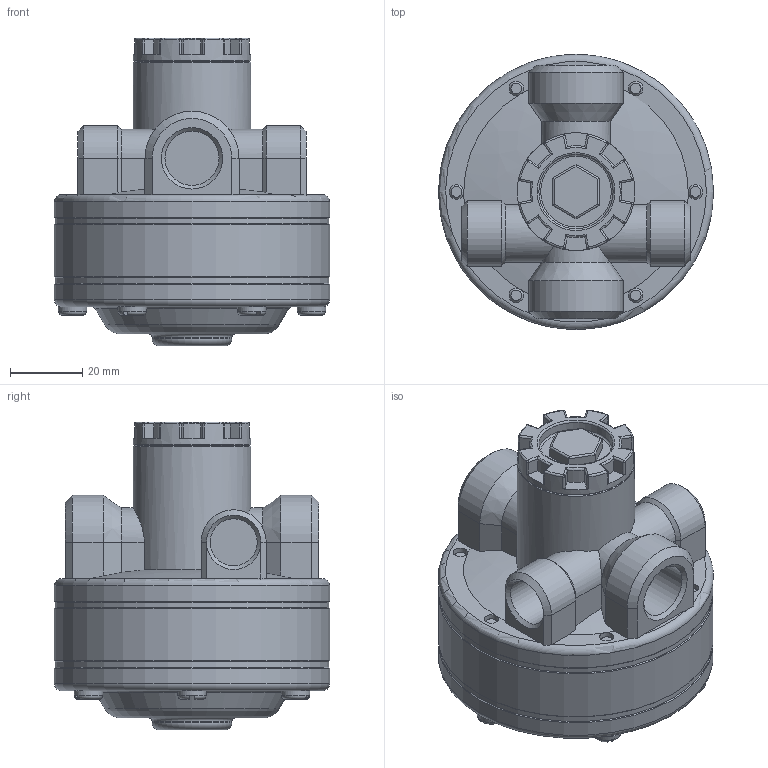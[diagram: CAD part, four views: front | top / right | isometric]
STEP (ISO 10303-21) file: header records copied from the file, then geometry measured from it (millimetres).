
FILE_DESCRIPTION(/* description */ (''),/* implementation_level */ '2;1');
FILE_NAME(/* name */ 'U:/AirCom-Produktdokumentation/Volumenstrombooster/R119-J/Zeichnungen/CAD-Aircom/3D/B-R119-03J.step',/* time_stamp */ '2019-05-06T08:55:31+02:00',/* author */ ('fschroers'),/* organization */ (''),/* preprocessor_version */ 'ST-DEVELOPER v18',/* originating_system */ 'Autodesk Translation Framework v8.2.0.1029',/* authorisation */ '');
FILE_SCHEMA (('AUTOMOTIVE_DESIGN { 1 0 10303 214 3 1 1 }'));
Length unit declared in the file: millimetre
Products named in the file (5): B-R119-02J; B-R119-02x; _SFS FN 301 111186 Flachkopfschraube DIN 85 Stahl 4; Bodenschraube; B-R119-02x_1
Assembly tree (9 placements, depth 3):
  B-R119-02J
    B-R119-02x
    _SFS FN 301 111186 Flachkopfschraube DIN 85 Stahl 4  x6
    Bodenschraube
      B-R119-02x_1
Bounding box: 76 x 76 x 85 mm (x, y, z)
Volume: 213431.9 mm3; surface area: 68680 mm2
Topology: 12 solids, 12 shells, 337 faces, 813 edges, 507 vertices
Faces by surface type: plane 133, cylinder 110, cone 38, torus 36, sphere 16, bspline 4
Full cylindrical faces by diameter (mm): 3.141 x6, 4 x36, 8.5 x1, 13 x2, 14.95 x2, 20.5 x1, 22 x1, 32.5 x2, 75.5 x2, 76 x3
Entity records: 8360 total; most frequent: CARTESIAN_POINT 1758, DIRECTION 1451, ORIENTED_EDGE 1276, EDGE_CURVE 638, AXIS2_PLACEMENT_3D 592, VERTEX_POINT 387, EDGE_LOOP 329, CIRCLE 307
